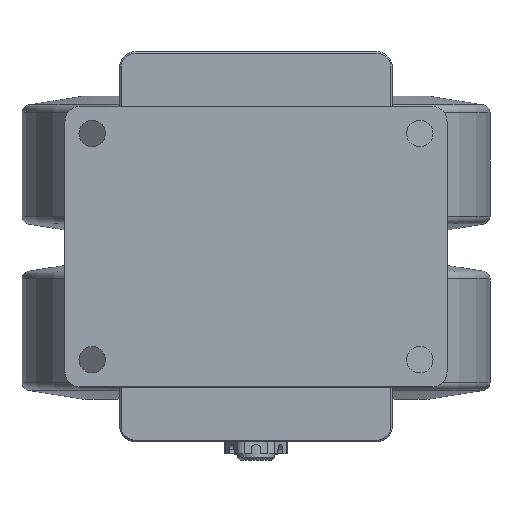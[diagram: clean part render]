
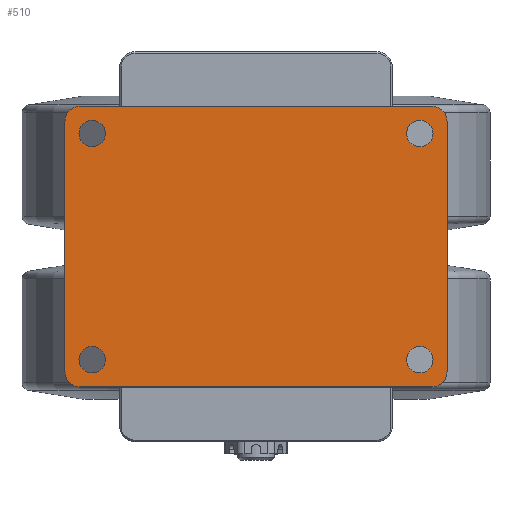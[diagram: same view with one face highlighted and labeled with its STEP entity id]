
A CAD part, top view. The second image highlights one B-rep face of the part: STEP entity #510.
In plain terms, the highlighted planar face has unit normal (0, 0, 1).
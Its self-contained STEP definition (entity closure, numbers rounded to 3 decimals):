
#510=ADVANCED_FACE('',(#1374,#1375,#1376,#1377,#1378),#866,.T.);
#866=PLANE('',#6604);
#1374=FACE_BOUND('',#1475,.T.);
#1375=FACE_BOUND('',#1476,.T.);
#1376=FACE_BOUND('',#1477,.T.);
#1377=FACE_BOUND('',#1478,.T.);
#1378=FACE_BOUND('',#1479,.T.);
#1475=EDGE_LOOP('',(#2330,#2331,#2332,#2333,#2334,#2335,#2336,#2337));
#1476=EDGE_LOOP('',(#2338));
#1477=EDGE_LOOP('',(#2339));
#1478=EDGE_LOOP('',(#2340));
#1479=EDGE_LOOP('',(#2341));
#1908=CIRCLE('',#6581,10.);
#1910=CIRCLE('',#6584,10.);
#1912=CIRCLE('',#6587,10.);
#1914=CIRCLE('',#6590,10.);
#1922=CIRCLE('',#6600,8.5);
#1923=CIRCLE('',#6601,8.5);
#1924=CIRCLE('',#6602,8.5);
#1925=CIRCLE('',#6603,8.5);
#2330=ORIENTED_EDGE('',*,*,#4835,.T.);
#2331=ORIENTED_EDGE('',*,*,#4809,.T.);
#2332=ORIENTED_EDGE('',*,*,#4836,.T.);
#2333=ORIENTED_EDGE('',*,*,#4817,.T.);
#2334=ORIENTED_EDGE('',*,*,#4837,.T.);
#2335=ORIENTED_EDGE('',*,*,#4821,.T.);
#2336=ORIENTED_EDGE('',*,*,#4838,.T.);
#2337=ORIENTED_EDGE('',*,*,#4813,.T.);
#2338=ORIENTED_EDGE('',*,*,#4839,.F.);
#2339=ORIENTED_EDGE('',*,*,#4840,.T.);
#2340=ORIENTED_EDGE('',*,*,#4841,.T.);
#2341=ORIENTED_EDGE('',*,*,#4842,.F.);
#4171=VERTEX_POINT('',#9477);
#4172=VERTEX_POINT('',#9478);
#4175=VERTEX_POINT('',#9486);
#4176=VERTEX_POINT('',#9487);
#4179=VERTEX_POINT('',#9495);
#4180=VERTEX_POINT('',#9496);
#4183=VERTEX_POINT('',#9504);
#4184=VERTEX_POINT('',#9505);
#4193=VERTEX_POINT('',#9534);
#4194=VERTEX_POINT('',#9536);
#4195=VERTEX_POINT('',#9538);
#4196=VERTEX_POINT('',#9540);
#4809=EDGE_CURVE('',#4171,#4172,#1908,.T.);
#4813=EDGE_CURVE('',#4175,#4176,#1910,.T.);
#4817=EDGE_CURVE('',#4179,#4180,#1912,.T.);
#4821=EDGE_CURVE('',#4183,#4184,#1914,.T.);
#4835=EDGE_CURVE('',#4176,#4171,#5622,.T.);
#4836=EDGE_CURVE('',#4172,#4179,#5623,.T.);
#4837=EDGE_CURVE('',#4180,#4183,#5624,.T.);
#4838=EDGE_CURVE('',#4184,#4175,#5625,.T.);
#4839=EDGE_CURVE('',#4193,#4193,#1922,.T.);
#4840=EDGE_CURVE('',#4194,#4194,#1923,.T.);
#4841=EDGE_CURVE('',#4195,#4195,#1924,.T.);
#4842=EDGE_CURVE('',#4196,#4196,#1925,.T.);
#5622=LINE('',#9529,#6096);
#5623=LINE('',#9530,#6097);
#5624=LINE('',#9531,#6098);
#5625=LINE('',#9532,#6099);
#6096=VECTOR('',#7322,1.);
#6097=VECTOR('',#7323,1.);
#6098=VECTOR('',#7324,1.);
#6099=VECTOR('',#7325,1.);
#6581=AXIS2_PLACEMENT_3D('',#9476,#7272,#7273);
#6584=AXIS2_PLACEMENT_3D('',#9485,#7280,#7281);
#6587=AXIS2_PLACEMENT_3D('',#9494,#7288,#7289);
#6590=AXIS2_PLACEMENT_3D('',#9503,#7296,#7297);
#6600=AXIS2_PLACEMENT_3D('',#9533,#7326,#7327);
#6601=AXIS2_PLACEMENT_3D('',#9535,#7328,#7329);
#6602=AXIS2_PLACEMENT_3D('',#9537,#7330,#7331);
#6603=AXIS2_PLACEMENT_3D('',#9539,#7332,#7333);
#6604=AXIS2_PLACEMENT_3D('',#9541,#7334,#7335);
#7272=DIRECTION('',(0.,0.,1.));
#7273=DIRECTION('',(0.,-1.,0.));
#7280=DIRECTION('',(0.,0.,1.));
#7281=DIRECTION('',(0.,-1.,0.));
#7288=DIRECTION('',(0.,0.,1.));
#7289=DIRECTION('',(0.,-1.,0.));
#7296=DIRECTION('',(0.,0.,1.));
#7297=DIRECTION('',(0.,-1.,0.));
#7322=DIRECTION('',(0.,1.,0.));
#7323=DIRECTION('',(-1.,0.,0.));
#7324=DIRECTION('',(0.,-1.,0.));
#7325=DIRECTION('',(1.,0.,0.));
#7326=DIRECTION('',(0.,0.,1.));
#7327=DIRECTION('',(1.,0.,0.));
#7328=DIRECTION('',(0.,0.,-1.));
#7329=DIRECTION('',(1.,0.,0.));
#7330=DIRECTION('',(0.,0.,-1.));
#7331=DIRECTION('',(1.,0.,0.));
#7332=DIRECTION('',(0.,0.,1.));
#7333=DIRECTION('',(1.,0.,0.));
#7334=DIRECTION('',(0.,0.,1.));
#7335=DIRECTION('',(0.,1.,0.));
#9476=CARTESIAN_POINT('',(112.5,80.,0.));
#9477=CARTESIAN_POINT('',(122.5,80.,0.));
#9478=CARTESIAN_POINT('',(112.5,90.,0.));
#9485=CARTESIAN_POINT('',(112.5,-80.,0.));
#9486=CARTESIAN_POINT('',(112.5,-90.,0.));
#9487=CARTESIAN_POINT('',(122.5,-80.,0.));
#9494=CARTESIAN_POINT('',(-112.5,80.,0.));
#9495=CARTESIAN_POINT('',(-112.5,90.,0.));
#9496=CARTESIAN_POINT('',(-122.5,80.,0.));
#9503=CARTESIAN_POINT('',(-112.5,-80.,0.));
#9504=CARTESIAN_POINT('',(-122.5,-80.,0.));
#9505=CARTESIAN_POINT('',(-112.5,-90.,0.));
#9529=CARTESIAN_POINT('',(122.5,-90.,0.));
#9530=CARTESIAN_POINT('',(122.5,90.,0.));
#9531=CARTESIAN_POINT('',(-122.5,90.,0.));
#9532=CARTESIAN_POINT('',(-122.5,-90.,0.));
#9533=CARTESIAN_POINT('',(-105.,72.5,0.));
#9534=CARTESIAN_POINT('',(-96.5,72.5,0.));
#9535=CARTESIAN_POINT('',(-105.,-72.5,0.));
#9536=CARTESIAN_POINT('',(-96.5,-72.5,0.));
#9537=CARTESIAN_POINT('',(105.,-72.5,0.));
#9538=CARTESIAN_POINT('',(113.5,-72.5,0.));
#9539=CARTESIAN_POINT('',(105.,72.5,0.));
#9540=CARTESIAN_POINT('',(113.5,72.5,0.));
#9541=CARTESIAN_POINT('',(-105.,72.5,0.));
